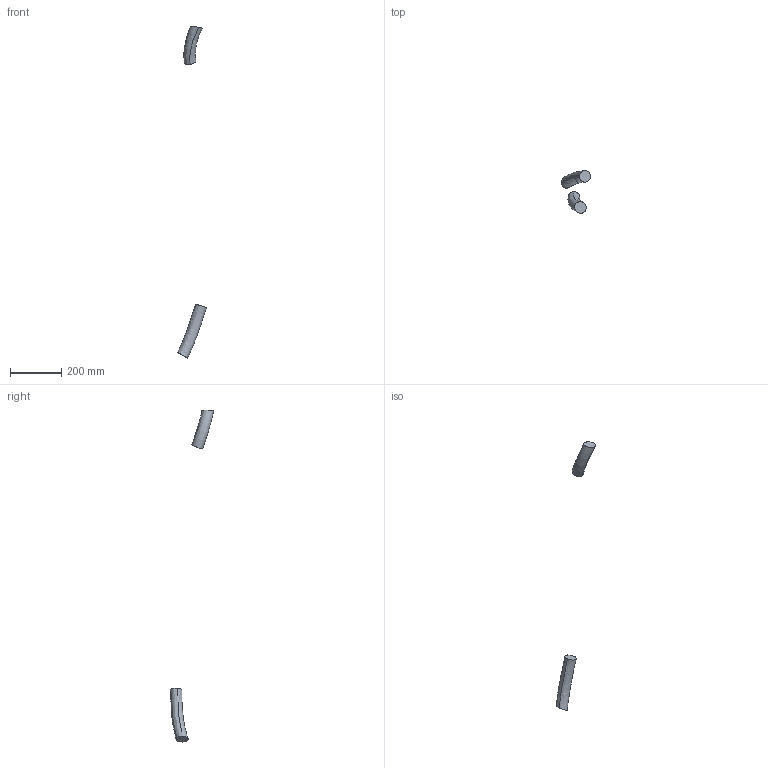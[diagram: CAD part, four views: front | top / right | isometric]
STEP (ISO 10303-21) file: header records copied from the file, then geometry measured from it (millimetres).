
FILE_DESCRIPTION (( 'STEP AP214' ), '1' );
FILE_NAME ('IRB6720-LID_140kg-320_OC_00_LINK02m_CABLE.step', '2026-06-10T12:10:17', ( '' ), ( '' ), 'SwSTEP 2.0', 'SolidWorks 2024', '' );
FILE_SCHEMA (( 'AUTOMOTIVE_DESIGN' ));
Length unit declared in the file: millimetre
Products named in the file (1): IRB6720-LID_140kg-320_OC_00_LINK02m_CABLE
Bounding box: 112.62 x 168.85 x 1293.16 mm (x, y, z)
Volume: 563876.3 mm3; surface area: 56623.3 mm2
Topology: 2 solids, 2 shells, 8 faces, 12 edges, 8 vertices
Faces by surface type: bspline 4, plane 4
Entity records: 1535 total; most frequent: CARTESIAN_POINT 1384, ORIENTED_EDGE 24, DIRECTION 18, EDGE_CURVE 12, AXIS2_PLACEMENT_3D 9, VERTEX_POINT 8, FACE_OUTER_BOUND 8, B_SPLINE_CURVE_WITH_KNOTS 8
